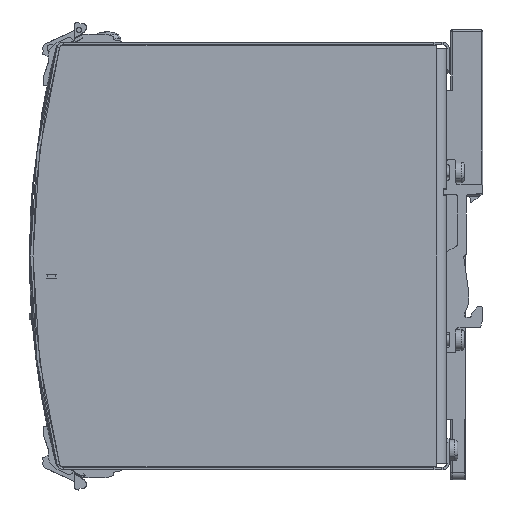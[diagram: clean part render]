
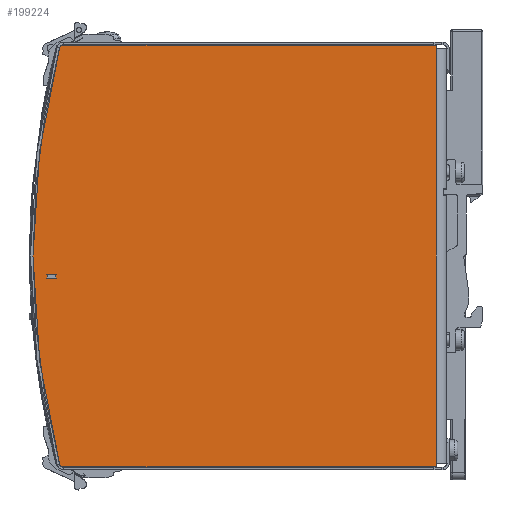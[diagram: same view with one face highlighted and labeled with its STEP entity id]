
A CAD part, left-side view. The second image highlights one B-rep face of the part: STEP entity #199224.
In plain terms, the highlighted planar face has unit normal (-1, 0, 0) as drawn and (0, -1, 0) by its records, which use the part's own axes.
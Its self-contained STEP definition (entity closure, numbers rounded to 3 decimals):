
#48 = CARTESIAN_POINT ( 'NONE',  ( 112.275, -24., -60.402 ) ) ;
#220 = DIRECTION ( 'NONE',  ( -1., 0., 0. ) ) ;
#6057 = DIRECTION ( 'NONE',  ( -1., 0., 0. ) ) ;
#10840 = DIRECTION ( 'NONE',  ( 0., 1., 0. ) ) ;
#11119 = VECTOR ( 'NONE', #187444, 1000. ) ;
#12580 = VERTEX_POINT ( 'NONE', #48 ) ;
#14025 = VECTOR ( 'NONE', #6057, 1000. ) ;
#16408 = CARTESIAN_POINT ( 'NONE',  ( 111.307, -24., 60.15 ) ) ;
#19673 = PLANE ( 'NONE',  #67141 ) ;
#20528 = VERTEX_POINT ( 'NONE', #187181 ) ;
#20872 = DIRECTION ( 'NONE',  ( 0., -1., 0. ) ) ;
#22523 = DIRECTION ( 'NONE',  ( 0., -1., 0. ) ) ;
#32940 = ORIENTED_EDGE ( 'NONE', *, *, #217368, .F. ) ;
#33713 = AXIS2_PLACEMENT_3D ( 'NONE', #16408, #186204, #78309 ) ;
#33814 = CARTESIAN_POINT ( 'NONE',  ( 3., -24., -60.15 ) ) ;
#37297 = VERTEX_POINT ( 'NONE', #58303 ) ;
#40097 = AXIS2_PLACEMENT_3D ( 'NONE', #174832, #231822, #159947 ) ;
#44808 = CIRCLE ( 'NONE', #183319, 240. ) ;
#49454 = CARTESIAN_POINT ( 'NONE',  ( 112.275, -24., 60.402 ) ) ;
#57255 = LINE ( 'NONE', #149079, #106974 ) ;
#58303 = CARTESIAN_POINT ( 'NONE',  ( 120., -24., 0. ) ) ;
#67141 = AXIS2_PLACEMENT_3D ( 'NONE', #212924, #20872, #155976 ) ;
#76259 = EDGE_CURVE ( 'NONE', #12580, #37297, #44808, .T. ) ;
#78309 = DIRECTION ( 'NONE',  ( 0.612, 0., 0.791 ) ) ;
#83131 = ORIENTED_EDGE ( 'NONE', *, *, #189985, .F. ) ;
#89238 = VECTOR ( 'NONE', #138136, 1000. ) ;
#93196 = CIRCLE ( 'NONE', #33713, 1. ) ;
#93464 = EDGE_CURVE ( 'NONE', #12580, #220940, #95169, .T. ) ;
#94625 = EDGE_CURVE ( 'NONE', #37297, #230746, #241798, .T. ) ;
#95169 = CIRCLE ( 'NONE', #197953, 1. ) ;
#95221 = VERTEX_POINT ( 'NONE', #143529 ) ;
#99397 = DIRECTION ( 'NONE',  ( -0.967, 0., -0.255 ) ) ;
#100937 = LINE ( 'NONE', #161592, #89238 ) ;
#106974 = VECTOR ( 'NONE', #205994, 1000. ) ;
#108004 = CARTESIAN_POINT ( 'NONE',  ( 111.307, -24., 61.15 ) ) ;
#113957 = VERTEX_POINT ( 'NONE', #130039 ) ;
#115129 = FACE_OUTER_BOUND ( 'NONE', #174853, .T. ) ;
#115695 = VERTEX_POINT ( 'NONE', #108004 ) ;
#119888 = EDGE_CURVE ( 'NONE', #95221, #20528, #225798, .T. ) ;
#130039 = CARTESIAN_POINT ( 'NONE',  ( 3., -24., 60.15 ) ) ;
#130124 = CARTESIAN_POINT ( 'NONE',  ( 111.307, -24., -61.15 ) ) ;
#130518 = CARTESIAN_POINT ( 'NONE',  ( 111.307, -24., -61.15 ) ) ;
#135698 = EDGE_CURVE ( 'NONE', #163036, #113957, #57255, .T. ) ;
#136895 = ORIENTED_EDGE ( 'NONE', *, *, #93464, .F. ) ;
#137442 = EDGE_CURVE ( 'NONE', #115695, #163036, #234075, .T. ) ;
#137694 = CARTESIAN_POINT ( 'NONE',  ( 111.307, -24., -60.15 ) ) ;
#138136 = DIRECTION ( 'NONE',  ( 0., 0., -1. ) ) ;
#140923 = ORIENTED_EDGE ( 'NONE', *, *, #119888, .T. ) ;
#143529 = CARTESIAN_POINT ( 'NONE',  ( 3., -24., -60.15 ) ) ;
#149079 = CARTESIAN_POINT ( 'NONE',  ( 3., -24., 61.15 ) ) ;
#155976 = DIRECTION ( 'NONE',  ( 0., 0., -1. ) ) ;
#159947 = DIRECTION ( 'NONE',  ( -0.967, 0., -0.255 ) ) ;
#161592 = CARTESIAN_POINT ( 'NONE',  ( 3., -24., 60.15 ) ) ;
#161991 = ORIENTED_EDGE ( 'NONE', *, *, #137442, .T. ) ;
#163036 = VERTEX_POINT ( 'NONE', #176528 ) ;
#163253 = DIRECTION ( 'NONE',  ( 0.612, 0., -0.791 ) ) ;
#169335 = ORIENTED_EDGE ( 'NONE', *, *, #94625, .T. ) ;
#169666 = ORIENTED_EDGE ( 'NONE', *, *, #135698, .T. ) ;
#174832 = CARTESIAN_POINT ( 'NONE',  ( -120., -24., 0. ) ) ;
#174853 = EDGE_LOOP ( 'NONE', ( #136895, #190706, #169335, #83131, #161991, #169666, #231247, #140923, #32940 ) ) ;
#175850 = CARTESIAN_POINT ( 'NONE',  ( 111.307, -24., 61.15 ) ) ;
#176528 = CARTESIAN_POINT ( 'NONE',  ( 3., -24., 61.15 ) ) ;
#183319 = AXIS2_PLACEMENT_3D ( 'NONE', #191069, #22523, #99397 ) ;
#186204 = DIRECTION ( 'NONE',  ( 0., 1., 0. ) ) ;
#187181 = CARTESIAN_POINT ( 'NONE',  ( 3., -24., -61.15 ) ) ;
#187444 = DIRECTION ( 'NONE',  ( 0., 0., -1. ) ) ;
#189985 = EDGE_CURVE ( 'NONE', #115695, #230746, #93196, .T. ) ;
#190706 = ORIENTED_EDGE ( 'NONE', *, *, #76259, .T. ) ;
#191069 = CARTESIAN_POINT ( 'NONE',  ( -120., -24., 0. ) ) ;
#197953 = AXIS2_PLACEMENT_3D ( 'NONE', #137694, #10840, #163253 ) ;
#199224 = ADVANCED_FACE ( 'NONE', ( #115129 ), #19673, .T. ) ;
#205994 = DIRECTION ( 'NONE',  ( 0., 0., -1. ) ) ;
#211588 = EDGE_CURVE ( 'NONE', #113957, #95221, #100937, .T. ) ;
#212924 = CARTESIAN_POINT ( 'NONE',  ( 130., -24., -61.15 ) ) ;
#217368 = EDGE_CURVE ( 'NONE', #220940, #20528, #243243, .T. ) ;
#220940 = VERTEX_POINT ( 'NONE', #130124 ) ;
#225798 = LINE ( 'NONE', #33814, #11119 ) ;
#230746 = VERTEX_POINT ( 'NONE', #49454 ) ;
#231247 = ORIENTED_EDGE ( 'NONE', *, *, #211588, .T. ) ;
#231822 = DIRECTION ( 'NONE',  ( 0., -1., 0. ) ) ;
#234075 = LINE ( 'NONE', #175850, #14025 ) ;
#241798 = CIRCLE ( 'NONE', #40097, 240. ) ;
#243243 = LINE ( 'NONE', #130518, #244839 ) ;
#244839 = VECTOR ( 'NONE', #220, 1000. ) ;
